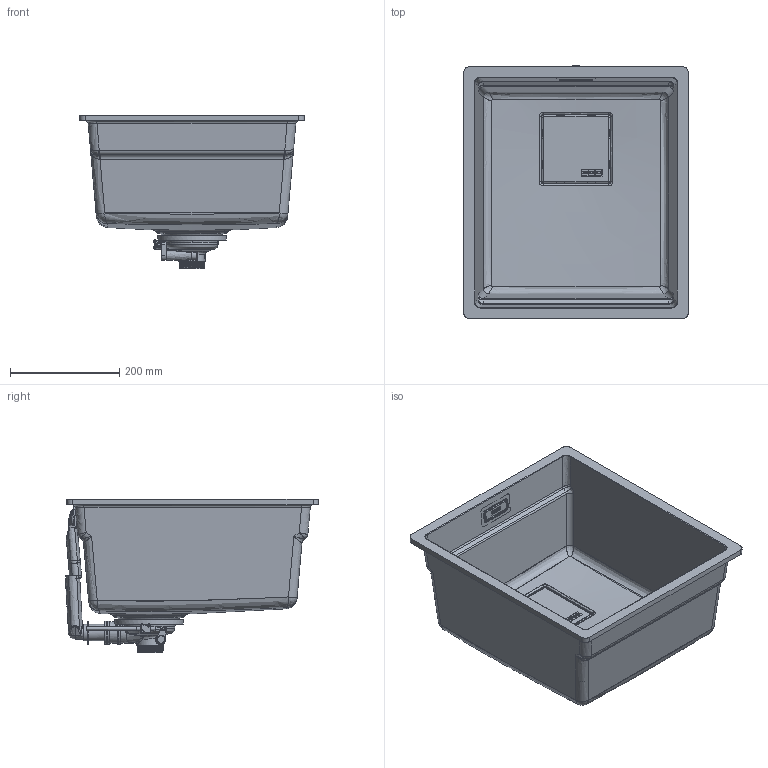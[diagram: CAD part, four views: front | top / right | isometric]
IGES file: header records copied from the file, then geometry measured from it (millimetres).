
Global section: file name: F:\_CONVERSIONE_CAD_2024_2025\_2024_GLB\Novelties_2024\Sinks\KUBUS-2\Caricati\125.0706.703 3D001_Sinks_Kubus-2_KNG-110-37\3D001_Sinks_Kubus-2_KNG-110-37.igs; native system: Rhinoceros ( Jul 12 2024 ); preprocessor: Trout Lake IGES 012 Jul 12 2024; date: 241118.075856; units: millimetre
Bounding box: 410 x 462.65 x 280 mm (x, y, z)
Surface area: 1030992.9 mm2 (no closed solid volume)
Topology: 0 solids, 0 shells, 2606 faces, 16134 edges, 16080 vertices
Faces by surface type: bspline 2606
